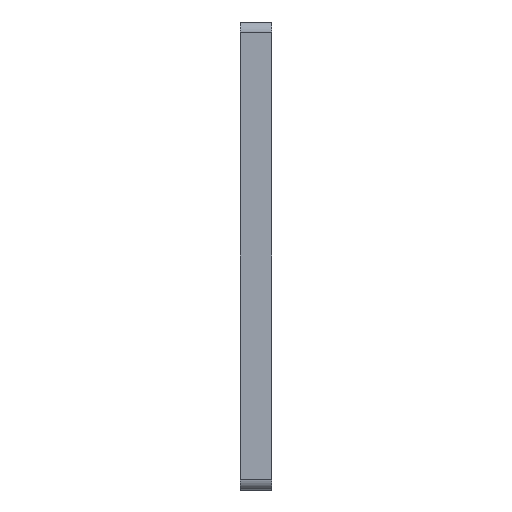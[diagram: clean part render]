
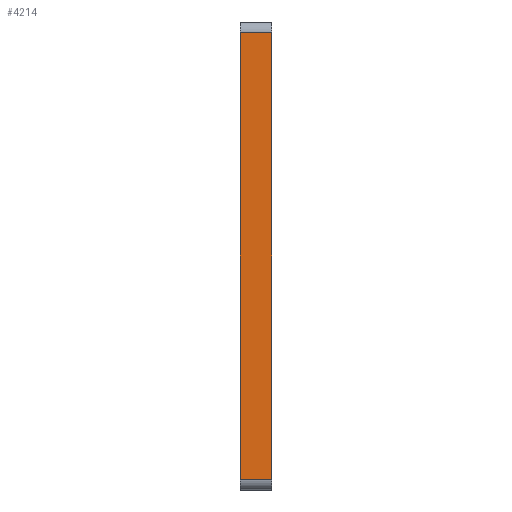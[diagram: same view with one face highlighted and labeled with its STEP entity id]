
A CAD part, left-side view. The second image highlights one B-rep face of the part: STEP entity #4214.
In plain terms, the highlighted planar face has unit normal (-1, 0, 0).
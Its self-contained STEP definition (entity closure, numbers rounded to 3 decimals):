
#459=FACE_OUTER_BOUND('',#755,.T.);
#755=EDGE_LOOP('',(#3661,#3662,#3663,#3664));
#1244=LINE('',#6686,#1710);
#1260=LINE('',#6727,#1726);
#1261=LINE('',#6730,#1727);
#1262=LINE('',#6731,#1728);
#1710=VECTOR('',#5449,10.);
#1726=VECTOR('',#5487,10.);
#1727=VECTOR('',#5490,10.);
#1728=VECTOR('',#5491,10.);
#2072=VERTEX_POINT('',#6683);
#2073=VERTEX_POINT('',#6685);
#2087=VERTEX_POINT('',#6724);
#2088=VERTEX_POINT('',#6729);
#2605=EDGE_CURVE('',#2072,#2073,#1244,.T.);
#2626=EDGE_CURVE('',#2087,#2073,#1260,.T.);
#2627=EDGE_CURVE('',#2087,#2088,#1261,.T.);
#2628=EDGE_CURVE('',#2088,#2072,#1262,.T.);
#3661=ORIENTED_EDGE('',*,*,#2627,.F.);
#3662=ORIENTED_EDGE('',*,*,#2626,.T.);
#3663=ORIENTED_EDGE('',*,*,#2605,.F.);
#3664=ORIENTED_EDGE('',*,*,#2628,.F.);
#4022=PLANE('',#4512);
#4214=ADVANCED_FACE('',(#459),#4022,.T.);
#4512=AXIS2_PLACEMENT_3D('',#6728,#5488,#5489);
#5449=DIRECTION('',(0.,0.,-1.));
#5487=DIRECTION('',(0.,-1.,0.));
#5488=DIRECTION('center_axis',(-1.,0.,0.));
#5489=DIRECTION('ref_axis',(0.,0.,-1.));
#5490=DIRECTION('',(0.,0.,1.));
#5491=DIRECTION('',(0.,-1.,0.));
#6683=CARTESIAN_POINT('',(-2.,-6.,0.));
#6685=CARTESIAN_POINT('',(-2.,-6.,-85.));
#6686=CARTESIAN_POINT('',(-2.,-6.,-85.));
#6724=CARTESIAN_POINT('',(-2.,0.,-85.));
#6727=CARTESIAN_POINT('',(-2.,0.,-85.));
#6728=CARTESIAN_POINT('Origin',(-2.,0.,0.));
#6729=CARTESIAN_POINT('',(-2.,0.,0.));
#6730=CARTESIAN_POINT('',(-2.,0.,-85.));
#6731=CARTESIAN_POINT('',(-2.,0.,0.));
